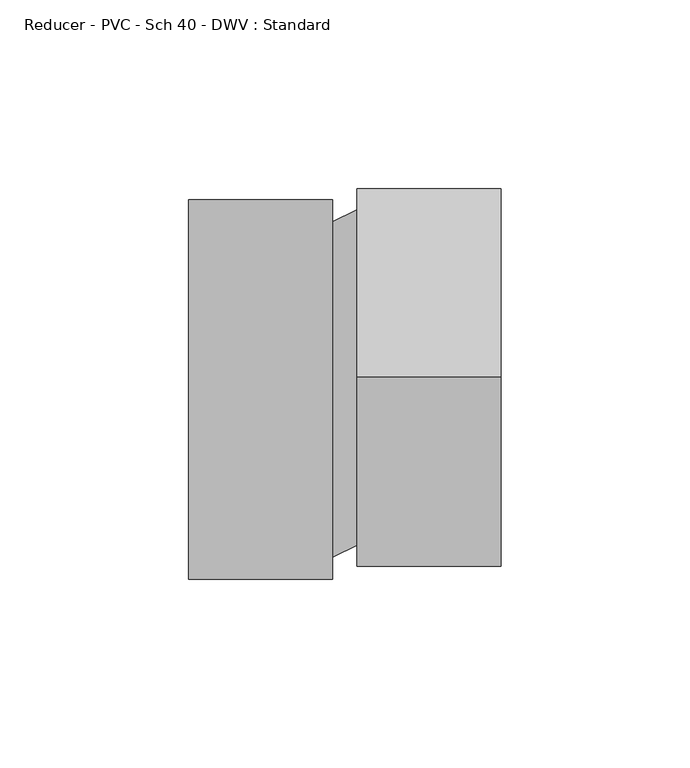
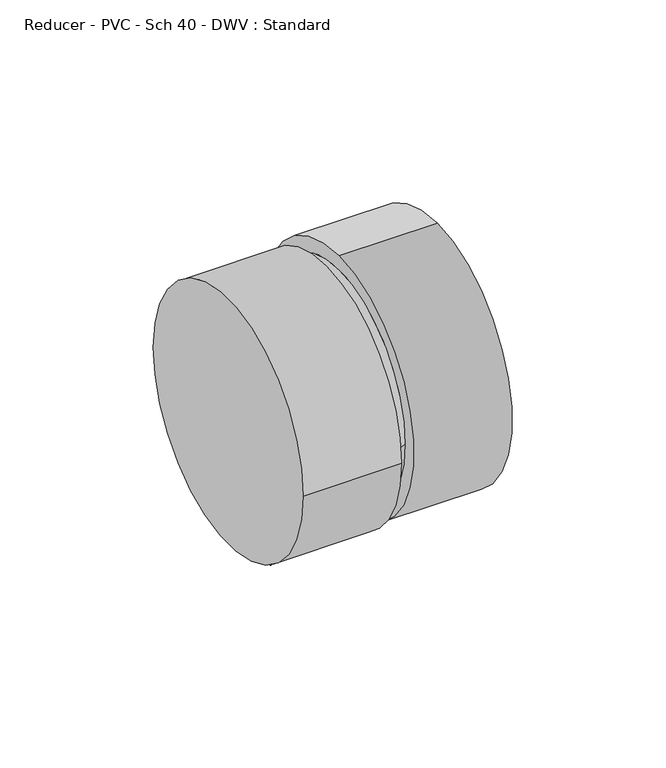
"""IFC4 building model written with IfcOpenShell, lengths in millimetres: pipe fitting geometry, Reducer - PVC - Sch 40 - DWV : Standard."""

from ifc_helpers import new_model, si_unit, point, frame, origin, place, context, project, spatial, circle_curve, trimmed, source, transform, mapped, element, save
from ifc_brep_helpers import plane_surface, cylinder_surface, extruded_surface, advanced_brep


def reducer_pvc_sch_40_dwv_standard_e0255712(model_context):
    return source(origin(), model_context, "Body", "AdvancedBrep", [
        advanced_brep(
        [(0.0, 50.2666, 0.0), (0.0, -50.2666, 0.0), (38.1, 50.2666, 0.0), (38.1, -50.2666, 0.0), (38.1, -44.45, 0.0), (38.1, 44.45, 0.0), (44.6920938, 47.625, 0.0), (44.6920938, -41.275, 0.0), (44.6920938, 3.175, 50.2666), (44.6920938, 3.175, -50.2666), (82.7920938, 3.175, 50.2666), (82.7920938, 3.175, -50.2666)],
        [
            (0, 1, circle_curve(frame((0.0, 0.0, 0.0), z_axis=(-1.0, 0.0, 0.0), x_axis=(0.0, -1.0, 0.0)), 50.2666)),
            (1, 0, circle_curve(frame((0.0, 0.0, 0.0), z_axis=(-1.0, 0.0, 0.0), x_axis=(0.0, -1.0, 0.0)), 50.2666)),
            (2, 3, circle_curve(frame((38.1, 0.0, 0.0), z_axis=(1.0, 0.0, 0.0), x_axis=(0.0, -1.0, 0.0)), 50.2666)),
            (3, 2, circle_curve(frame((38.1, 0.0, 0.0), z_axis=(1.0, 0.0, 0.0), x_axis=(0.0, -1.0, 0.0)), 50.2666)),
            (4, 5, circle_curve(frame((38.1, 0.0, 0.0), z_axis=(-1.0, 0.0, 0.0), x_axis=(0.0, -1.0, 0.0)), 44.45)),
            (5, 4, circle_curve(frame((38.1, 0.0, 0.0), z_axis=(-1.0, 0.0, 0.0), x_axis=(0.0, -1.0, 0.0)), 44.45)),
            (1, 3),
            (2, 0),
            (5, 6),
            (6, 7, circle_curve(frame((44.6920938, 3.175, 0.0), z_axis=(-1.0, 0.0, 0.0), x_axis=(0.0, -1.0, 0.0)), 44.45)),
            (7, 4),
            (7, 6, circle_curve(frame((44.6920938, 3.175, 0.0), z_axis=(-1.0, 0.0, 0.0), x_axis=(0.0, -1.0, 0.0)), 44.45)),
            (8, 9, circle_curve(frame((44.6920938, 3.175, 0.0), z_axis=(-1.0, 0.0, 0.0), x_axis=(0.0, 0.0, -1.0)), 50.2666)),
            (9, 8, circle_curve(frame((44.6920938, 3.175, 0.0), z_axis=(-1.0, 0.0, 0.0), x_axis=(0.0, 0.0, -1.0)), 50.2666)),
            (10, 11, circle_curve(frame((82.7920938, 3.175, 0.0), z_axis=(1.0, 0.0, 0.0), x_axis=(0.0, 0.0, -1.0)), 50.2666)),
            (11, 10, circle_curve(frame((82.7920938, 3.175, 0.0), z_axis=(1.0, 0.0, 0.0), x_axis=(0.0, 0.0, -1.0)), 50.2666)),
            (9, 11),
            (10, 8),
        ],
        [
            plane_surface(frame((0.0, 0.0, 0.0), z_axis=(-1.0, 0.0, 0.0), x_axis=(0.0, 0.0, 1.0))),
            plane_surface(frame((38.1, 0.0, 0.0), z_axis=(1.0, 0.0, 0.0), x_axis=(0.0, 0.0, 1.0))),
            cylinder_surface(frame((0.0, 0.0, 0.0), z_axis=(-1.0, 0.0, 0.0), x_axis=(0.0, -1.0, 0.0)), 50.2666),
            extruded_surface(trimmed(circle_curve(frame((44.6920938, 3.175, 0.0), z_axis=(-1.0, 0.0, 0.0), x_axis=(0.0, -1.0, 0.0)), 44.45), [point((44.6920938, 47.625, 0.0))], [point((44.6920938, -41.275, 0.0))], True, "CARTESIAN"), (-6.592093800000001, -3.175, 0.0), 7.316852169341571),
            extruded_surface(trimmed(circle_curve(frame((44.6920938, 3.175, 0.0), z_axis=(-1.0, 0.0, 0.0), x_axis=(0.0, -1.0, 0.0)), 44.45), [point((44.6920938, -41.275, 0.0))], [point((44.6920938, 47.625, 0.0))], True, "CARTESIAN"), (-6.592093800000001, -3.175, 0.0), 7.316852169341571),
            plane_surface(frame((44.6920938, 3.175, 0.0), z_axis=(-1.0, 0.0, 0.0), x_axis=(0.0, -1.0, 0.0))),
            plane_surface(frame((82.7920938, 3.175, 0.0), z_axis=(1.0, 0.0, 0.0), x_axis=(0.0, -1.0, 0.0))),
            cylinder_surface(frame((44.6920938, 3.175, 0.0), z_axis=(-1.0, 0.0, 0.0), x_axis=(0.0, 0.0, -1.0)), 50.2666),
        ],
        [
            (0, [[1, 2]]),
            (1, [[3, 4], [5, 6]]),
            (2, [[7, -3, 8, -2]]),
            (2, [[-8, -4, -7, -1]]),
            (3, [[-6, 9, 10, 11]]),
            (4, [[12, -9, -5, -11]]),
            (5, [[13, 14], [-12, -10]]),
            (6, [[15, 16]]),
            (7, [[17, -15, 18, -14]]),
            (7, [[-18, -16, -17, -13]]),
        ],
    ),
    ])


if __name__ == "__main__":
    model = new_model("IFC4")
    model_context = context("Model", 3, world=origin())
    ifc_project = project(units=[si_unit("LENGTHUNIT", "METRE", prefix="MILLI")], contexts=[model_context])
    site = spatial("IfcSite", under=ifc_project)
    building = spatial("IfcBuilding", under=site)
    placement = place(None, origin())
    reducer_pvc_sch_40_dwv_standard_shape = reducer_pvc_sch_40_dwv_standard_e0255712(model_context)
    element("IfcPipeFitting", 1, ObjectType="Reducer - PVC - Sch 40 - DWV : Standard", at=placement, inside=building, context=model_context, shape_type="MappedRepresentation", body=[
        mapped(reducer_pvc_sch_40_dwv_standard_shape, transform((0.0, 0.0, 0.0), x_axis=(1.0, 0.0, 0.0), y_axis=(0.0, 1.0, 0.0), z_axis=(0.0, 0.0, 1.0))),
    ])
    save(model, "model.ifc")
